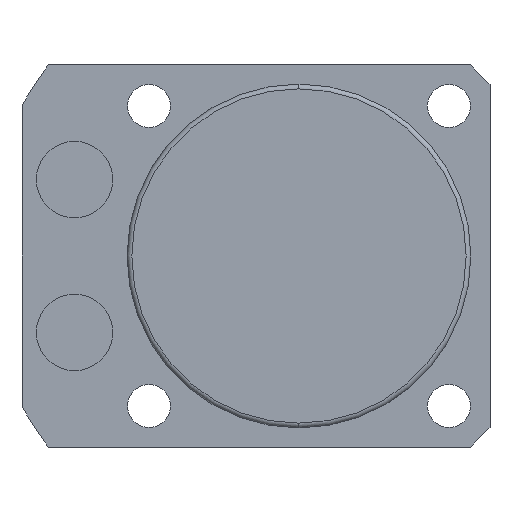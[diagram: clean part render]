
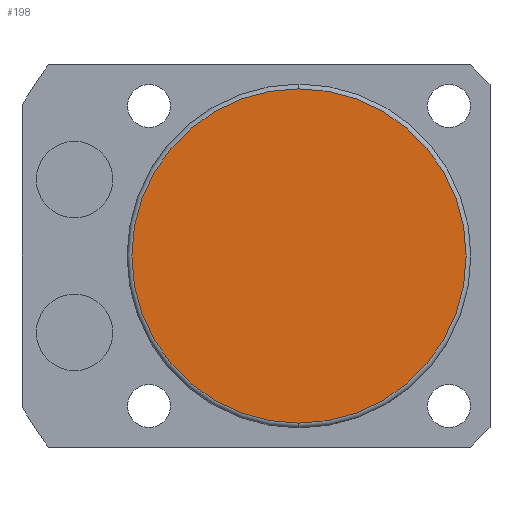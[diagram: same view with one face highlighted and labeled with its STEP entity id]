
A CAD part, front view. The second image highlights one B-rep face of the part: STEP entity #198.
In plain terms, the highlighted planar face has unit normal (0, -1, 0).
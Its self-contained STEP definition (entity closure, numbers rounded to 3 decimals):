
#93 = EDGE_CURVE ( 'NONE', #942, #593, #1372, .T. ) ;
#166 = DIRECTION ( 'NONE',  ( 0., -1., 0. ) ) ;
#198 = ADVANCED_FACE ( 'NONE', ( #1622 ), #2248, .T. ) ;
#344 = DIRECTION ( 'NONE',  ( 0., 0., -1. ) ) ;
#353 = CARTESIAN_POINT ( 'NONE',  ( 0., -125.5, 0. ) ) ;
#593 = VERTEX_POINT ( 'NONE', #2071 ) ;
#793 = DIRECTION ( 'NONE',  ( 0., -1., 0. ) ) ;
#942 = VERTEX_POINT ( 'NONE', #1711 ) ;
#968 = ORIENTED_EDGE ( 'NONE', *, *, #93, .T. ) ;
#1024 = ORIENTED_EDGE ( 'NONE', *, *, #1959, .T. ) ;
#1099 = CARTESIAN_POINT ( 'NONE',  ( 0., -125.5, 0. ) ) ;
#1372 = CIRCLE ( 'NONE', #2321, 17.5 ) ;
#1533 = DIRECTION ( 'NONE',  ( 0., 0., -1. ) ) ;
#1602 = AXIS2_PLACEMENT_3D ( 'NONE', #353, #166, #344 ) ;
#1622 = FACE_OUTER_BOUND ( 'NONE', #1805, .T. ) ;
#1660 = DIRECTION ( 'NONE',  ( 0., 0., -1. ) ) ;
#1711 = CARTESIAN_POINT ( 'NONE',  ( 0., -125.5, 17.5 ) ) ;
#1805 = EDGE_LOOP ( 'NONE', ( #1024, #968 ) ) ;
#1825 = CIRCLE ( 'NONE', #1602, 17.5 ) ;
#1903 = CARTESIAN_POINT ( 'NONE',  ( 0., -125.5, 0. ) ) ;
#1959 = EDGE_CURVE ( 'NONE', #593, #942, #1825, .T. ) ;
#2071 = CARTESIAN_POINT ( 'NONE',  ( 0., -125.5, -17.5 ) ) ;
#2211 = AXIS2_PLACEMENT_3D ( 'NONE', #1903, #793, #1533 ) ;
#2234 = DIRECTION ( 'NONE',  ( 0., -1., 0. ) ) ;
#2248 = PLANE ( 'NONE',  #2211 ) ;
#2321 = AXIS2_PLACEMENT_3D ( 'NONE', #1099, #2234, #1660 ) ;
